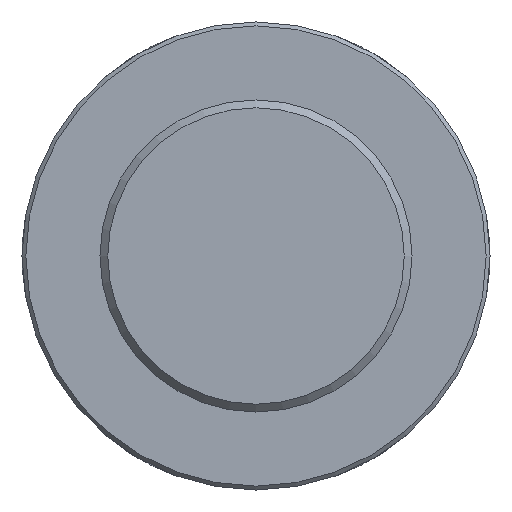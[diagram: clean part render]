
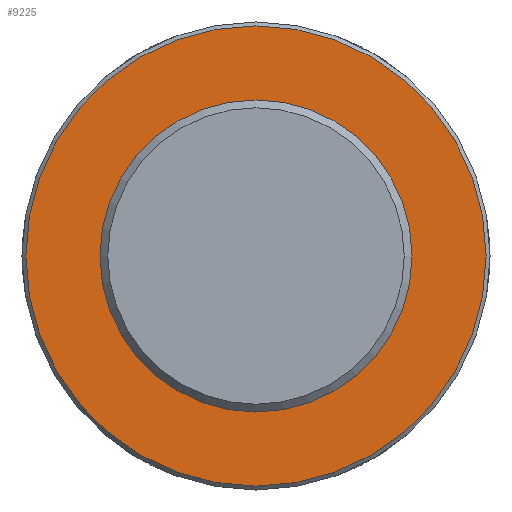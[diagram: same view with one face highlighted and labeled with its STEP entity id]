
A CAD part, front view. The second image highlights one B-rep face of the part: STEP entity #9225.
In plain terms, the highlighted planar face has unit normal (0, -1, 0) as drawn and (0, 1, 0) by its records, which use the part's own axes.
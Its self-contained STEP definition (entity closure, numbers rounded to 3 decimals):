
#73=CIRCLE('',#9537,118.);
#358=PLANE('',#9540);
#861=FACE_OUTER_BOUND('',#1444,.T.);
#1444=EDGE_LOOP('',(#8404));
#4396=VERTEX_POINT('',#17285);
#5736=EDGE_CURVE('',#4396,#4396,#73,.T.);
#8404=ORIENTED_EDGE('',*,*,#5736,.F.);
#9225=ADVANCED_FACE('',(#861),#358,.T.);
#9537=AXIS2_PLACEMENT_3D('',#17286,#10751,#10752);
#9540=AXIS2_PLACEMENT_3D('',#17524,#10757,#10758);
#10751=DIRECTION('center_axis',(0.,-1.,0.));
#10752=DIRECTION('ref_axis',(1.,0.,0.));
#10757=DIRECTION('center_axis',(0.,1.,0.));
#10758=DIRECTION('ref_axis',(0.,0.,1.));
#17285=CARTESIAN_POINT('',(-118.,105.,0.));
#17286=CARTESIAN_POINT('Origin',(0.,105.,0.));
#17524=CARTESIAN_POINT('Origin',(0.,105.,0.));
